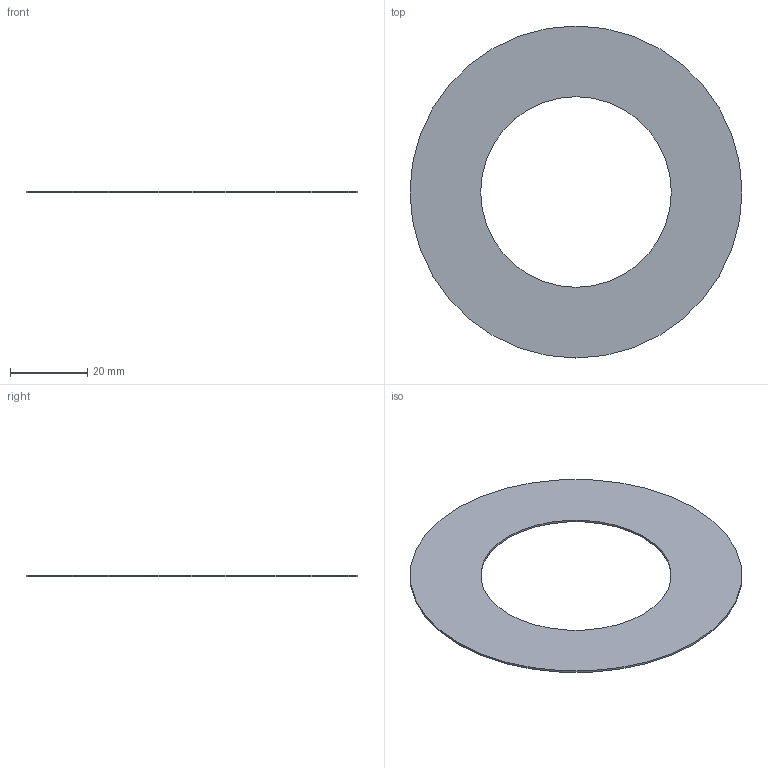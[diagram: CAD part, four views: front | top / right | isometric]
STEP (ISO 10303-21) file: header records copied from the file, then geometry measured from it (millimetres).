
FILE_DESCRIPTION(/* description */ (''),/* implementation_level */ '2;1');
FILE_NAME(/* name */ 'E:/hidden/Engineering Projects/Leslie Controls SuperTyfon/CAD/Components/24438 Diaphragm Ring.step',/* time_stamp */ '2022-08-18T19:35:11+10:00',/* author */ (''),/* organization */ (''),/* preprocessor_version */ 'ST-DEVELOPER v19',/* originating_system */ 'Autodesk Translation Framework v11.7.0.108',/* authorisation */ '');
FILE_SCHEMA (('AUTOMOTIVE_DESIGN { 1 0 10303 214 3 1 1 }'));
Length unit declared in the file: inch
Products named in the file (1): 24438 Diaphragm Ring
Bounding box: 85.72 x 85.72 x 0.51 mm (x, y, z)
Volume: 1965.7 mm3; surface area: 7954.5 mm2
Topology: 1 solids, 1 shells, 4 faces, 6 edges, 4 vertices
Faces by surface type: cylinder 2, plane 2
Full cylindrical faces by diameter (mm): 49.212 x1, 85.725 x1
Entity records: 133 total; most frequent: DIRECTION 20, CARTESIAN_POINT 15, ORIENTED_EDGE 12, AXIS2_PLACEMENT_3D 9, EDGE_LOOP 6, EDGE_CURVE 6, FACE_OUTER_BOUND 4, CIRCLE 4
